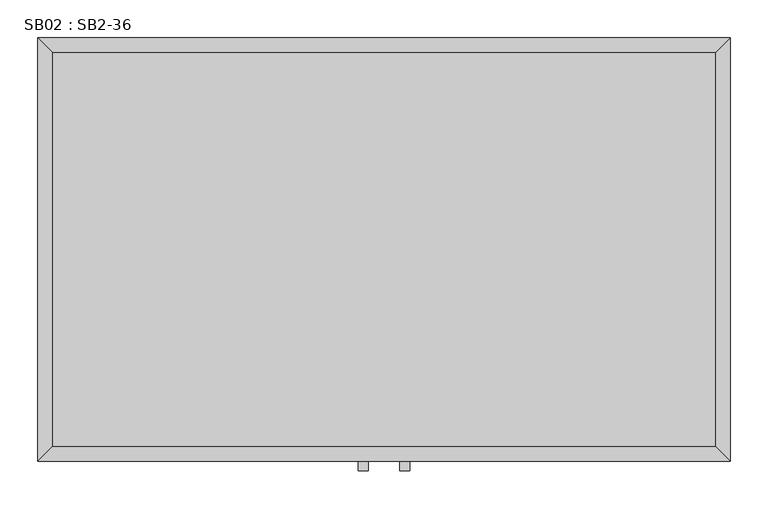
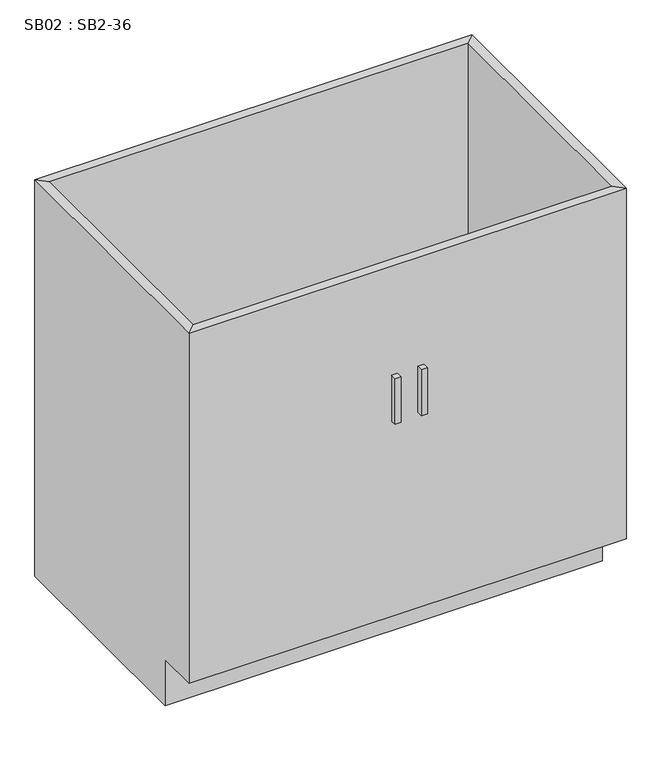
"""IFC4 building model written with IfcOpenShell, lengths in millimetres: furniture geometry, SB02 : SB2-36."""

from ifc_helpers import new_model, si_unit, frame, origin, place, context, project, spatial, polyline, outline, extrude, faceted_brep, source, transform, mapped, element, save


def sb02_sb2_36_93bd8c5c(model_context):
    return source(origin(), model_context, "Body", "SolidModel", [
        extrude(outline(polyline([(-2.2622951, -571.7), (-14.9622951, -571.7), (-14.9622951, -559.0), (-2.2622951, -559.0), (-2.2622951, -571.7)])), frame((0.0, 0.0, 533.8), z_axis=(0.0, 0.0, 1.0), x_axis=(1.0, 0.0, 0.0)), (0.0, 0.0, 1.0), 101.6),
        extrude(outline(polyline([(52.4377049, -571.7), (39.7377049, -571.7), (39.7377049, -559.0), (52.4377049, -559.0), (52.4377049, -571.7)])), frame((0.0, 0.0, 533.8), z_axis=(0.0, 0.0, 1.0), x_axis=(1.0, 0.0, 0.0)), (0.0, 0.0, 1.0), 101.6),
        faceted_brep([(-419.4122951, -472.0, 102.0), (456.8877049, -472.0, 102.0), (456.8877049, -19.05, 102.0), (-419.4122951, -19.05, 102.0), (475.9377049, 0.0, 0.0), (475.9377049, -472.0, 0.0), (-438.4622951, -472.0, 0.0), (-438.4622951, 0.0, 0.0), (-438.4622951, 0.0, 876.3), (475.9377049, 0.0, 876.3), (-438.4622951, -472.0, 102.0), (-438.4622951, -559.0, 102.0), (-438.4622951, -559.0, 876.3), (475.9377049, -472.0, 102.0), (475.9377049, -559.0, 876.3), (475.9377049, -559.0, 102.0), (456.8877049, -539.95, 876.3), (456.8877049, -539.95, 102.0), (-419.4122951, -539.95, 102.0), (-419.4122951, -539.95, 876.3), (-419.4122951, -19.05, 876.3), (456.8877049, -19.05, 876.3)], [[[0, 1, 2, 3]], [[4, 5, 6, 7]], [[4, 7, 8, 9]], [[8, 7, 6, 10, 11, 12]], [[6, 5, 13, 1, 0, 10]], [[5, 4, 9, 14, 15, 13]], [[16, 17, 18, 19]], [[16, 19, 12, 14]], [[14, 12, 11, 15]], [[18, 17, 15, 11]], [[19, 18, 0, 3, 20]], [[12, 19, 20, 8]], [[18, 11, 10, 0]], [[20, 3, 2, 21]], [[8, 20, 21, 9]], [[17, 16, 21, 2, 1]], [[16, 14, 9, 21]], [[15, 17, 1, 13]]]),
        extrude(outline(polyline([(456.8877049, -19.05), (456.8877049, -539.95), (-419.4122951, -539.95), (-419.4122951, -19.05), (456.8877049, -19.05)])), frame((0.0, 0.0, 102.0), z_axis=(0.0, 0.0, 1.0), x_axis=(1.0, 0.0, 0.0)), (0.0, 0.0, 1.0), 19.05),
    ])


if __name__ == "__main__":
    model = new_model("IFC4")
    model_context = context("Model", 3, world=origin())
    ifc_project = project(units=[si_unit("LENGTHUNIT", "METRE", prefix="MILLI")], contexts=[model_context])
    site = spatial("IfcSite", under=ifc_project)
    building = spatial("IfcBuilding", under=site)
    placement = place(None, origin())
    sb02_sb2_36_shape = sb02_sb2_36_93bd8c5c(model_context)
    element("IfcFurniture", 1, ObjectType="SB02 : SB2-36", at=placement, inside=building, context=model_context, shape_type="MappedRepresentation", body=[
        mapped(sb02_sb2_36_shape, transform((0.0, 0.0, 0.0), x_axis=(1.0, 0.0, 0.0), y_axis=(0.0, 1.0, 0.0), z_axis=(0.0, 0.0, 1.0))),
    ])
    save(model, "model.ifc")
